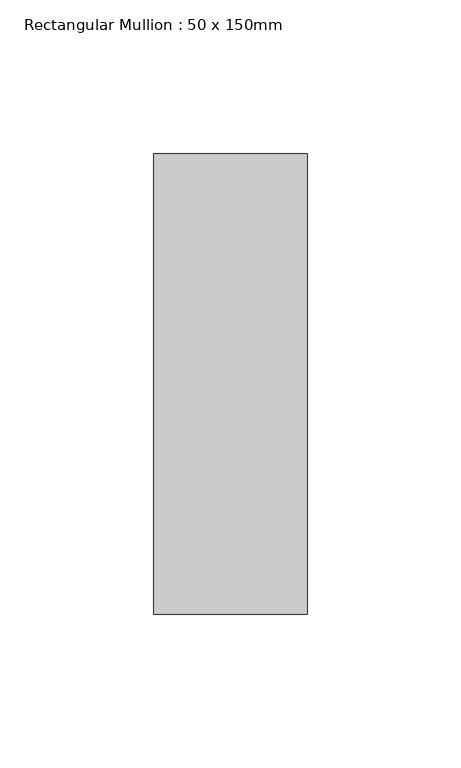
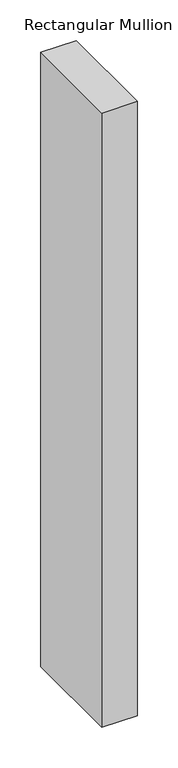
"""IFC4 building model written with IfcOpenShell, lengths in millimetres: member geometry, Rectangular Mullion : 50 x 150mm."""

from ifc_helpers import new_model, si_unit, frame, origin, place, context, project, spatial, polyline, outline, extrude, source, transform, mapped, element, save


def rectangular_mullion_50_x_150mm_4b7bd92e(model_context):
    return source(origin(), model_context, "Body", "SweptSolid", [
        extrude(outline(polyline([(25.0, 75.0), (25.0, -75.0), (-25.0, -75.0), (-25.0, 75.0), (25.0, 75.0)])), frame((0.0, 0.0, -920.0), z_axis=(0.0, 0.0, 1.0), x_axis=(1.0, 0.0, 0.0)), (0.0, 0.0, 1.0), 920.0),
    ])


if __name__ == "__main__":
    model = new_model("IFC4")
    model_context = context("Model", 3, world=origin())
    ifc_project = project(units=[si_unit("LENGTHUNIT", "METRE", prefix="MILLI")], contexts=[model_context])
    site = spatial("IfcSite", under=ifc_project)
    building = spatial("IfcBuilding", under=site)
    placement = place(None, origin())
    rectangular_mullion_50_x_150mm_shape = rectangular_mullion_50_x_150mm_4b7bd92e(model_context)
    element("IfcMember", 1, ObjectType="Rectangular Mullion : 50 x 150mm", at=placement, inside=building, context=model_context, shape_type="MappedRepresentation", body=[
        mapped(rectangular_mullion_50_x_150mm_shape, transform((0.0, 0.0, 0.0), x_axis=(1.0, 0.0, 0.0), y_axis=(0.0, 1.0, 0.0), z_axis=(0.0, 0.0, 1.0))),
    ])
    save(model, "model.ifc")
